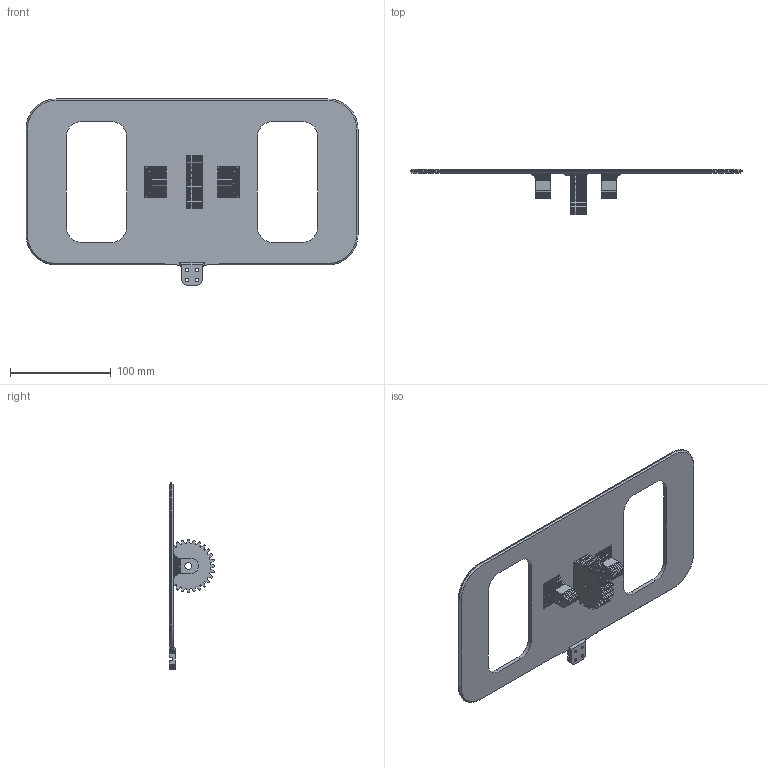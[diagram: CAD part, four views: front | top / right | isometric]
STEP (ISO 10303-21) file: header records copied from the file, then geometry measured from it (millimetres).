
FILE_DESCRIPTION(/* description */ ('STEP AP242 Edition 2','CAx-IF Rec.Pracs.---Representation and Presentation of Product Manufacturing Information (PMI)---4.0---2014-10-13','CAx-IF Rec.Pracs.---3D Tessellated Geometry---0.4---2014-09-14','2;1','CAx-IF Rec.Pracs.---User Defined Attributes---1.5---2016-08-15'),/* implementation_level */ '2;1');
FILE_NAME(/* name */ 'Tracker Assembly - Panel Holder',/* time_stamp */ '2026-10-25T15:06:35Z',/* author */ (''),/* organization */ (''),/* preprocessor_version */ 'ST-DEVELOPER v20',/* originating_system */ 'ONSHAPE BY PTC INC, 1.222',/* authorisation */ ' ');
FILE_SCHEMA (('AP242_MANAGED_MODEL_BASED_3D_ENGINEERING_MIM_LF { 1 0 10303 442 3 1 4 }'));
Length unit declared in the file: metre
Products named in the file (1): Panel Holder
Bounding box: 330 x 45.24 x 185 mm (x, y, z)
Volume: 192845.7 mm3; surface area: 94730 mm2
Topology: 1 solids, 1 shells, 835 faces, 2060 edges, 1230 vertices
Faces by surface type: plane 815, cylinder 12, cone 8
Entity records: 23664 total; most frequent: CARTESIAN_POINT 4126, ORIENTED_EDGE 4120, DIRECTION 3764, EDGE_CURVE 2060, LINE 2028, VECTOR 2028, VERTEX_POINT 1230, AXIS2_PLACEMENT_3D 868
